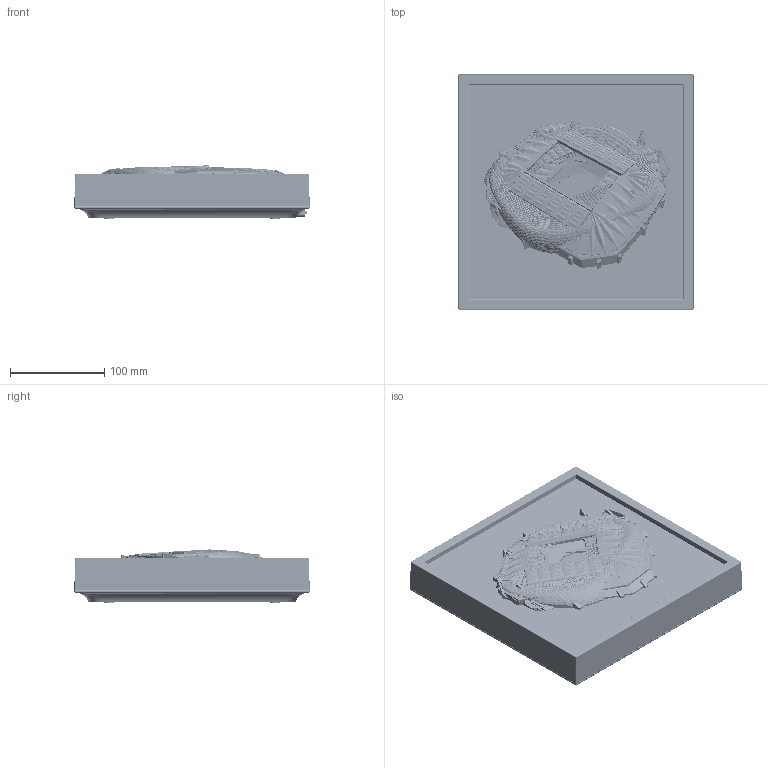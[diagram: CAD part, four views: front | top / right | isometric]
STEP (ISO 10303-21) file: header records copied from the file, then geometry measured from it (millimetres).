
FILE_DESCRIPTION((''),'2;1');
FILE_NAME('00_FANTASTIC_FRAME','2026-04-23T11:07:15',('jlin'),(''),'CREO PARAMETRIC BY PTC INC, 2025443','CREO PARAMETRIC BY PTC INC, 2025443','');
FILE_SCHEMA(('CONFIG_CONTROL_DESIGN','SHAPE_APPEARANCE_LAYERS_GROUPS'));
Products named in the file (47): RAHMEN_GEHRUNG; FABRIC; FRONT_PLATE; HSV; S04; BVB; BMG; FCB; SGE; FCSP; FCSP_FP; FRONT; BOTTOM_HOUSING; SPEAKER_HOUSING_3W; A0040N20L01R1_10_1_2; A0040N20L01R1_10_2_1; A0040N20L01R1_10_ASM_1; SCREW_M2D6X10; 3W; PCB; K1227SNAV1_ASM; VOL_WHEEL; SCREW_M1D7X5; SPEAKER_WIRE; BATTERY_CABLE; PCBA; PCB_BATTERY; BATTERY_SPRING-; BATTERY_SPRING0; BATTERY_SPRING_00; PIN_254; BATTERY_PCBA; BATTERY_COVER; BATTERY_CUSHION; AA_R6; BACK; STICKER; EVA_10; SCREW_PB1D7X5; 00_FANTASTIC_FRAME
Assembly tree (71 placements, depth 5):
  00_FANTASTIC_FRAME
    FRONT
      RAHMEN_GEHRUNG
      FABRIC
      HSV
        FRONT_PLATE
        HSV
      S04
        S04
      BVB
        BVB
      BMG
        BMG
      FCB
        FCB
      SGE
      FCSP
        FCSP
        FCSP_FP
    BACK
      BOTTOM_HOUSING
      3W
        SPEAKER_HOUSING_3W
        A0040N20L01R1_10_ASM_1
          A0040N20L01R1_10_1_2
          A0040N20L01R1_10_2_1
        SCREW_M2D6X10  x4
      PCBA
        PCB
        K1227SNAV1_ASM
        VOL_WHEEL
        SCREW_M1D7X5
        SPEAKER_WIRE
        BATTERY_CABLE
      BATTERY_PCBA
        PCB_BATTERY
        BATTERY_SPRING-
        BATTERY_SPRING0
        BATTERY_SPRING_00
        PIN_254
      BATTERY_COVER
        BATTERY_COVER
        BATTERY_CUSHION
      AA_R6  x4
    STICKER
    EVA_10  x4
    SCREW_PB1D7X5  x7
    SCREW_M2D6X10  x10
Bounding box: 250.01 x 250.01 x 56.59 mm (x, y, z)
Volume: 719185.1 mm3; surface area: 970511.9 mm2
Topology: 68 solids, 71 shells, 18014 faces, 46332 edges, 28751 vertices
Faces by surface type: bspline 6969, plane 6692, cylinder 2314, extrusion 751, cone 595, torus 535, sphere 116, revolution 42
Entity records: 1064110 total; most frequent: CARTESIAN_POINT 479509, ORIENTED_EDGE 87358, PRESENTATION_STYLE_ASSIGNMENT 55133, DIRECTION 53991, STYLED_ITEM 52430, CURVE_STYLE 44278, EDGE_CURVE 43685, VERTEX_POINT 26920
